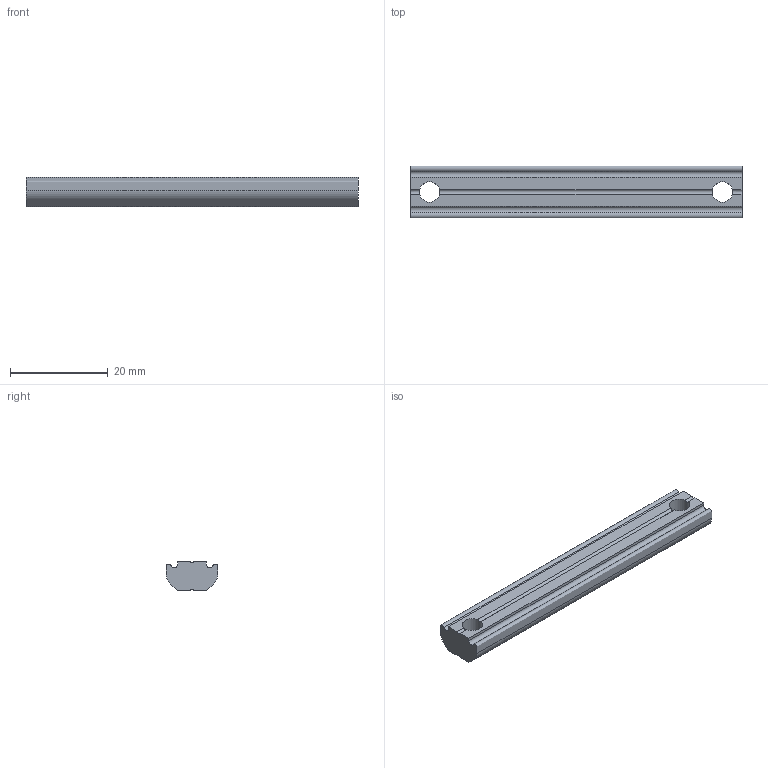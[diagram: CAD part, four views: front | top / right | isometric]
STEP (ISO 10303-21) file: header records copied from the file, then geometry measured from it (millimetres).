
FILE_DESCRIPTION(('STEP AP214'),'1');
FILE_NAME('CA.GWP.5.60.stp','2018-08-29T12:50:37',(' '),(' '),'Spatial InterOp 3D',' ',' ');
FILE_SCHEMA(('AUTOMOTIVE_DESIGN { 1 0 10303 214 1 1 1 1 }'));
Length unit declared in the file: millimetre
Products named in the file (1): GWP.5.60
Bounding box: 68 x 10.6 x 6 mm (x, y, z)
Volume: 3452 mm3; surface area: 2361.3 mm2
Topology: 1 solids, 1 shells, 27 faces, 83 edges, 54 vertices
Faces by surface type: cylinder 14, plane 13
Full cylindrical faces by diameter (mm): 4.2 x2
Entity records: 1215 total; most frequent: CARTESIAN_POINT 235, ORIENTED_EDGE 162, DIRECTION 153, EDGE_CURVE 81, VERTEX_POINT 54, AXIS2_PLACEMENT_3D 52, LINE 49, VECTOR 49
